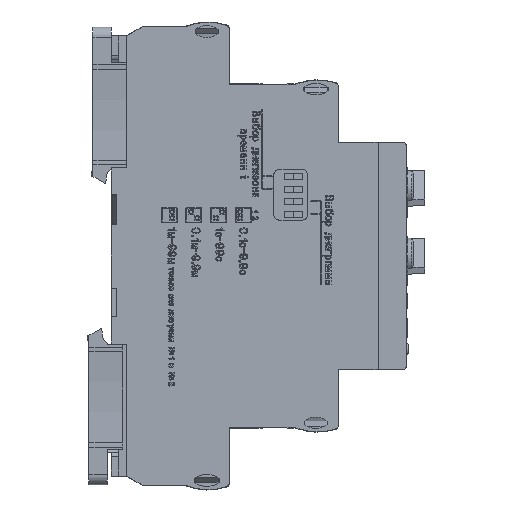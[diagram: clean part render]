
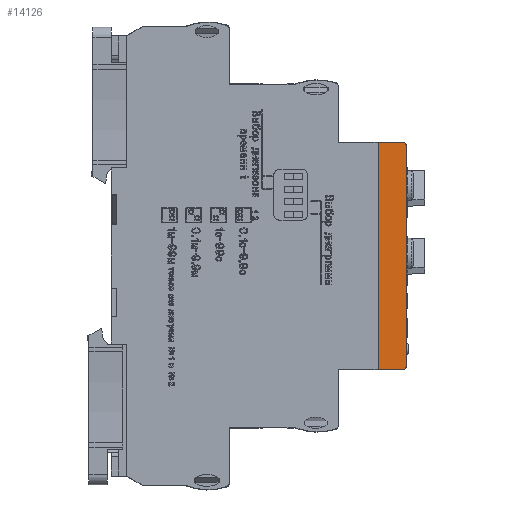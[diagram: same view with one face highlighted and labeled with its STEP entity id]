
A CAD part, front view. The second image highlights one B-rep face of the part: STEP entity #14126.
In plain terms, the highlighted planar face has unit normal (0, -1, 0) as drawn and (-1, 0, 0) by its records, which use the part's own axes.
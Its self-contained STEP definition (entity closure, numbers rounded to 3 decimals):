
#14126=ADVANCED_FACE('',(#150584),#150586,.T.);
#150584=FACE_BOUND('',#150585,.T.);
#150585=EDGE_LOOP('',(#254515,#254516,#254517,#254518,#254519,#254520));
#150586=PLANE('',#150587);
#150587=AXIS2_PLACEMENT_3D('',#150588,#150589,#150590);
#150588=CARTESIAN_POINT('',(-6.5,-22.6,1.5));
#150589=DIRECTION('',(-1.,0.,0.));
#150590=DIRECTION('',(0.,0.,1.));
#254515=ORIENTED_EDGE('',*,*,#355303,.T.);
#254516=ORIENTED_EDGE('',*,*,#355304,.T.);
#254517=ORIENTED_EDGE('',*,*,#355252,.F.);
#254518=ORIENTED_EDGE('',*,*,#355305,.T.);
#254519=ORIENTED_EDGE('',*,*,#355306,.F.);
#254520=ORIENTED_EDGE('',*,*,#355307,.T.);
#355252=EDGE_CURVE('',#400976,#400977,#400978,.T.);
#355303=EDGE_CURVE('',#401066,#401067,#401068,.T.);
#355304=EDGE_CURVE('',#401067,#400977,#401069,.T.);
#355305=EDGE_CURVE('',#400976,#401070,#401071,.T.);
#355306=EDGE_CURVE('',#401072,#401070,#401073,.T.);
#355307=EDGE_CURVE('',#401072,#401066,#401074,.T.);
#400976=VERTEX_POINT('',#480284);
#400977=VERTEX_POINT('',#480285);
#400978=LINE('',#480286,#480287);
#401066=VERTEX_POINT('',#480479);
#401067=VERTEX_POINT('',#480480);
#401068=LINE('',#480481,#480482);
#401069=CIRCLE('',#480484,1.);
#401070=VERTEX_POINT('',#480488);
#401071=CIRCLE('',#480489,1.);
#401072=VERTEX_POINT('',#480493);
#401073=LINE('',#480494,#480495);
#401074=LINE('',#480497,#480498);
#480284=CARTESIAN_POINT('',(-6.5,-21.6,0.));
#480285=CARTESIAN_POINT('',(-6.5,21.6,0.));
#480286=CARTESIAN_POINT('',(-6.5,-21.6,0.));
#480287=VECTOR('',#480288,1.);
#480288=DIRECTION('',(0.,1.,0.));
#480479=CARTESIAN_POINT('',(-6.5,22.6,5.75));
#480480=CARTESIAN_POINT('',(-6.5,22.6,1.));
#480481=CARTESIAN_POINT('',(-6.5,22.6,5.75));
#480482=VECTOR('',#480483,1.);
#480483=DIRECTION('',(0.,0.,-1.));
#480484=AXIS2_PLACEMENT_3D('',#480485,#480486,#480487);
#480485=CARTESIAN_POINT('',(-6.5,21.6,1.));
#480486=DIRECTION('',(-1.,0.,0.));
#480487=DIRECTION('',(0.,1.,0.));
#480488=CARTESIAN_POINT('',(-6.5,-22.6,1.));
#480489=AXIS2_PLACEMENT_3D('',#480490,#480491,#480492);
#480490=CARTESIAN_POINT('',(-6.5,-21.6,1.));
#480491=DIRECTION('',(-1.,0.,0.));
#480492=DIRECTION('',(0.,0.,-1.));
#480493=CARTESIAN_POINT('',(-6.5,-22.6,5.75));
#480494=CARTESIAN_POINT('',(-6.5,-22.6,5.75));
#480495=VECTOR('',#480496,1.);
#480496=DIRECTION('',(0.,0.,-1.));
#480497=CARTESIAN_POINT('',(-6.5,-22.6,5.75));
#480498=VECTOR('',#480499,1.);
#480499=DIRECTION('',(0.,1.,0.));
